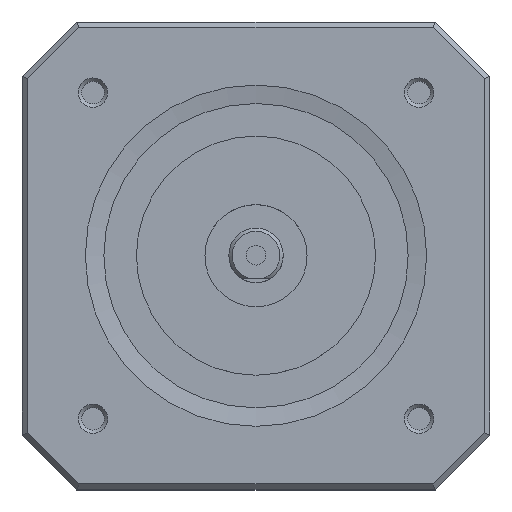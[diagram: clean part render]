
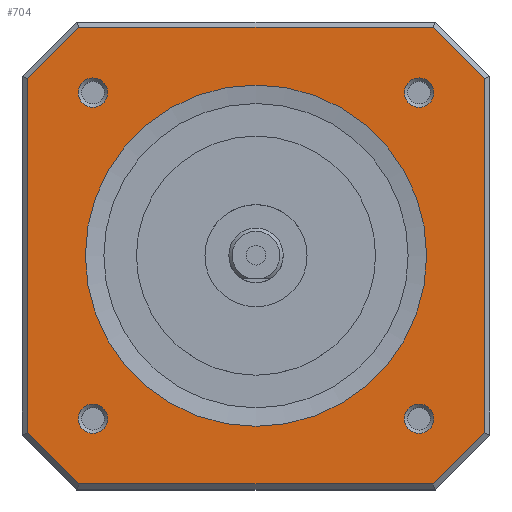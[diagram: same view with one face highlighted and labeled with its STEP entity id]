
A CAD part, top view. The second image highlights one B-rep face of the part: STEP entity #704.
In plain terms, the highlighted planar face has unit normal (0, 0, 1).
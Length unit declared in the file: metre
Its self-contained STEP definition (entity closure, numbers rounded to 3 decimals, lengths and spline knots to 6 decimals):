
#38=PLANE('',#794);
#75=LINE('',#1141,#135);
#76=LINE('',#1144,#136);
#77=LINE('',#1146,#137);
#78=LINE('',#1148,#138);
#79=LINE('',#1150,#139);
#80=LINE('',#1152,#140);
#81=LINE('',#1154,#141);
#82=LINE('',#1156,#142);
#135=VECTOR('',#940,1.);
#136=VECTOR('',#941,1.);
#137=VECTOR('',#942,1.);
#138=VECTOR('',#943,1.);
#139=VECTOR('',#944,1.);
#140=VECTOR('',#945,1.);
#141=VECTOR('',#946,1.);
#142=VECTOR('',#947,1.);
#248=ORIENTED_EDGE('',*,*,#390,.F.);
#249=ORIENTED_EDGE('',*,*,#386,.F.);
#250=ORIENTED_EDGE('',*,*,#380,.T.);
#251=ORIENTED_EDGE('',*,*,#388,.F.);
#252=ORIENTED_EDGE('',*,*,#392,.F.);
#253=ORIENTED_EDGE('',*,*,#393,.F.);
#254=ORIENTED_EDGE('',*,*,#394,.F.);
#255=ORIENTED_EDGE('',*,*,#395,.F.);
#256=ORIENTED_EDGE('',*,*,#396,.F.);
#257=ORIENTED_EDGE('',*,*,#397,.F.);
#258=ORIENTED_EDGE('',*,*,#398,.F.);
#259=ORIENTED_EDGE('',*,*,#399,.F.);
#260=ORIENTED_EDGE('',*,*,#400,.F.);
#380=EDGE_CURVE('',#461,#461,#509,.T.);
#386=EDGE_CURVE('',#467,#467,#515,.T.);
#388=EDGE_CURVE('',#469,#469,#517,.T.);
#390=EDGE_CURVE('',#471,#471,#519,.T.);
#392=EDGE_CURVE('',#473,#473,#521,.T.);
#393=EDGE_CURVE('',#474,#475,#75,.T.);
#394=EDGE_CURVE('',#476,#474,#76,.T.);
#395=EDGE_CURVE('',#477,#476,#77,.T.);
#396=EDGE_CURVE('',#478,#477,#78,.T.);
#397=EDGE_CURVE('',#479,#478,#79,.T.);
#398=EDGE_CURVE('',#480,#479,#80,.T.);
#399=EDGE_CURVE('',#481,#480,#81,.T.);
#400=EDGE_CURVE('',#475,#481,#82,.T.);
#461=VERTEX_POINT('',#1102);
#467=VERTEX_POINT('',#1121);
#469=VERTEX_POINT('',#1127);
#471=VERTEX_POINT('',#1133);
#473=VERTEX_POINT('',#1139);
#474=VERTEX_POINT('',#1142);
#475=VERTEX_POINT('',#1143);
#476=VERTEX_POINT('',#1145);
#477=VERTEX_POINT('',#1147);
#478=VERTEX_POINT('',#1149);
#479=VERTEX_POINT('',#1151);
#480=VERTEX_POINT('',#1153);
#481=VERTEX_POINT('',#1155);
#509=CIRCLE('',#768,0.015701);
#515=CIRCLE('',#781,0.00135);
#517=CIRCLE('',#785,0.00135);
#519=CIRCLE('',#789,0.00135);
#521=CIRCLE('',#793,0.00135);
#567=EDGE_LOOP('',(#248));
#568=EDGE_LOOP('',(#249));
#569=EDGE_LOOP('',(#250));
#570=EDGE_LOOP('',(#251));
#571=EDGE_LOOP('',(#252));
#572=EDGE_LOOP('',(#253,#254,#255,#256,#257,#258,#259,#260));
#640=FACE_BOUND('',#567,.T.);
#641=FACE_BOUND('',#568,.T.);
#642=FACE_BOUND('',#569,.T.);
#643=FACE_BOUND('',#570,.T.);
#644=FACE_BOUND('',#571,.T.);
#645=FACE_BOUND('',#572,.T.);
#704=ADVANCED_FACE('',(#640,#641,#642,#643,#644,#645),#38,.T.);
#768=AXIS2_PLACEMENT_3D('',#1101,#886,#887);
#781=AXIS2_PLACEMENT_3D('',#1120,#912,#913);
#785=AXIS2_PLACEMENT_3D('',#1126,#920,#921);
#789=AXIS2_PLACEMENT_3D('',#1132,#928,#929);
#793=AXIS2_PLACEMENT_3D('',#1138,#936,#937);
#794=AXIS2_PLACEMENT_3D('',#1140,#938,#939);
#886=DIRECTION('',(0.,0.,-1.));
#887=DIRECTION('',(-1.,0.,0.));
#912=DIRECTION('',(0.,0.,1.));
#913=DIRECTION('',(-1.,0.,0.));
#920=DIRECTION('',(0.,0.,1.));
#921=DIRECTION('',(-1.,0.,0.));
#928=DIRECTION('',(0.,0.,1.));
#929=DIRECTION('',(-1.,0.,0.));
#936=DIRECTION('',(0.,0.,1.));
#937=DIRECTION('',(-1.,0.,0.));
#938=DIRECTION('',(0.,0.,1.));
#939=DIRECTION('',(1.,0.,0.));
#940=DIRECTION('',(1.,0.,0.));
#941=DIRECTION('',(0.707,0.707,0.));
#942=DIRECTION('',(0.,1.,0.));
#943=DIRECTION('',(-0.707,0.707,0.));
#944=DIRECTION('',(-1.,0.,0.));
#945=DIRECTION('',(-0.707,-0.707,0.));
#946=DIRECTION('',(0.,-1.,0.));
#947=DIRECTION('',(0.707,-0.707,0.));
#1101=CARTESIAN_POINT('',(0.,0.,0.033));
#1102=CARTESIAN_POINT('',(-0.015701,0.,0.033));
#1120=CARTESIAN_POINT('',(-0.015,0.015,0.033));
#1121=CARTESIAN_POINT('',(-0.01635,0.015,0.033));
#1126=CARTESIAN_POINT('',(0.015,0.015,0.033));
#1127=CARTESIAN_POINT('',(0.01365,0.015,0.033));
#1132=CARTESIAN_POINT('',(0.015,-0.015,0.033));
#1133=CARTESIAN_POINT('',(0.01365,-0.015,0.033));
#1138=CARTESIAN_POINT('',(-0.015,-0.015,0.033));
#1139=CARTESIAN_POINT('',(-0.01635,-0.015,0.033));
#1140=CARTESIAN_POINT('',(0.,0.,0.033));
#1141=CARTESIAN_POINT('',(0.01075,0.021,0.033));
#1142=CARTESIAN_POINT('',(-0.016293,0.021,0.033));
#1143=CARTESIAN_POINT('',(0.016293,0.021,0.033));
#1144=CARTESIAN_POINT('',(-0.018646,0.018646,0.033));
#1145=CARTESIAN_POINT('',(-0.021,0.016293,0.033));
#1146=CARTESIAN_POINT('',(-0.021,0.01075,0.033));
#1147=CARTESIAN_POINT('',(-0.021,-0.016293,0.033));
#1148=CARTESIAN_POINT('',(-0.018646,-0.018646,0.033));
#1149=CARTESIAN_POINT('',(-0.016293,-0.021,0.033));
#1150=CARTESIAN_POINT('',(-0.01075,-0.021,0.033));
#1151=CARTESIAN_POINT('',(0.016293,-0.021,0.033));
#1152=CARTESIAN_POINT('',(0.018646,-0.018646,0.033));
#1153=CARTESIAN_POINT('',(0.021,-0.016293,0.033));
#1154=CARTESIAN_POINT('',(0.021,-0.01075,0.033));
#1155=CARTESIAN_POINT('',(0.021,0.016293,0.033));
#1156=CARTESIAN_POINT('',(0.018646,0.018646,0.033));
